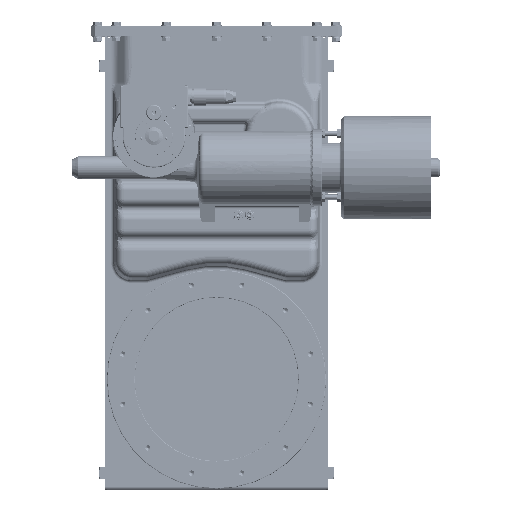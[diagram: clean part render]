
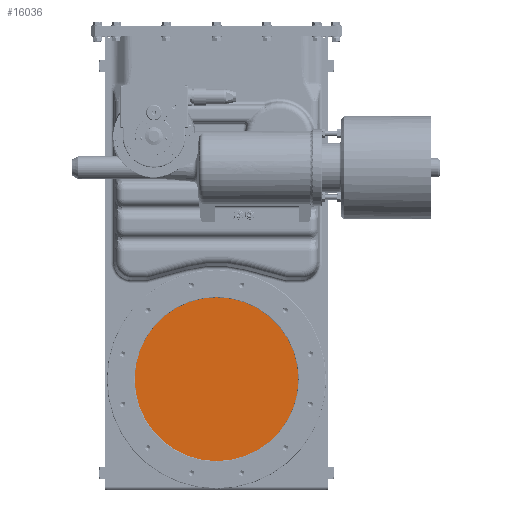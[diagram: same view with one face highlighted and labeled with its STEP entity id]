
A CAD part, top view. The second image highlights one B-rep face of the part: STEP entity #16036.
In plain terms, the highlighted planar face has unit normal (0, 0, 1).
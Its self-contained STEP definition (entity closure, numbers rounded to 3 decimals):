
#13036=PLANE('',#49209);
#14086=FACE_OUTER_BOUND('',#21644,.T.);
#16036=ADVANCED_FACE('',(#14086),#13036,.T.);
#21644=EDGE_LOOP('',(#25486));
#25486=ORIENTED_EDGE('',*,*,#40920,.T.);
#36974=VERTEX_POINT('',#67061);
#40920=EDGE_CURVE('',#36974,#36974,#46665,.T.);
#46665=CIRCLE('',#49206,130.55);
#49206=AXIS2_PLACEMENT_3D('',#67060,#54418,#54419);
#49209=AXIS2_PLACEMENT_3D('',#67064,#54424,#54425);
#54418=DIRECTION('',(0.,0.,1.));
#54419=DIRECTION('',(0.,1.,0.));
#54424=DIRECTION('',(0.,0.,1.));
#54425=DIRECTION('',(0.,-1.,0.));
#67060=CARTESIAN_POINT('',(0.,-546.85,19.));
#67061=CARTESIAN_POINT('',(0.,-416.3,19.));
#67064=CARTESIAN_POINT('',(0.,-546.85,19.));
